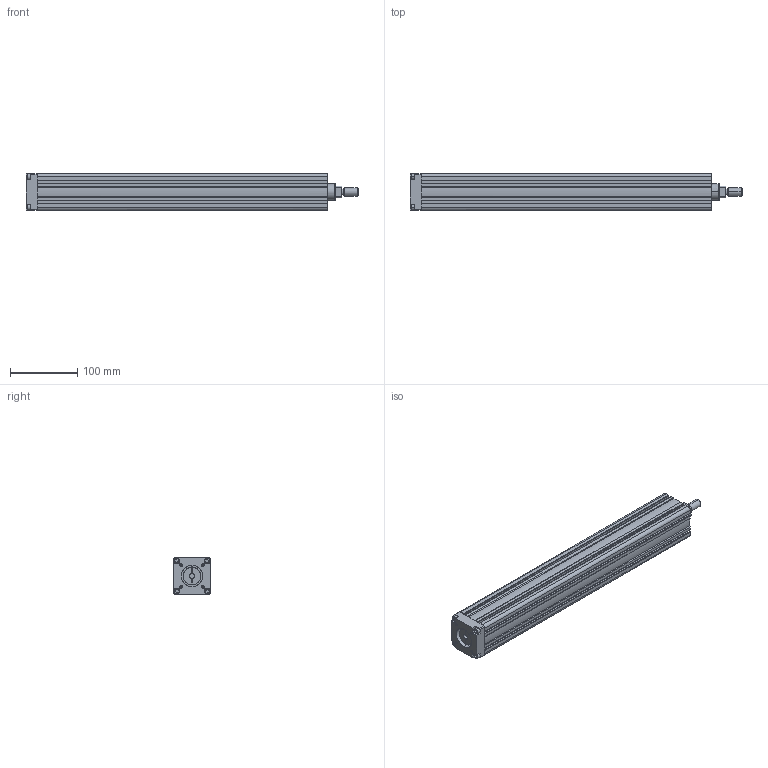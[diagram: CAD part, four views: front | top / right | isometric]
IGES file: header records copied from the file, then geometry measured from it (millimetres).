
Start section: SolidWorks IGES file using analytic representation for surfaces
Global section: file name: C:\Users\render\Documents\CAD Files\Integrated-Actuators\RD-Series\RD-55T\RD-55T-300.IGS; native system: SolidWorks 2009; preprocessor: SolidWorks 2009; author: render; date: 100614.134246; units: millimetre
Bounding box: 495 x 55 x 55 mm (x, y, z)
Surface area: 215669.3 mm2 (no closed solid volume)
Topology: 0 solids, 0 shells, 383 faces, 3699 edges, 3691 vertices
Faces by surface type: bspline 238, revolution 145
